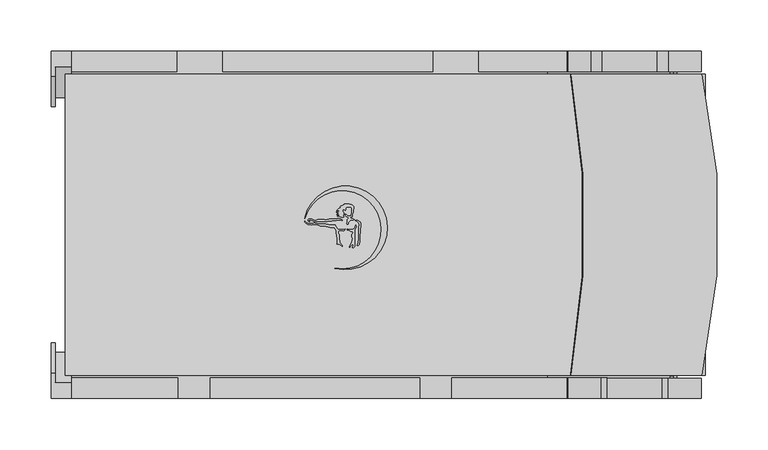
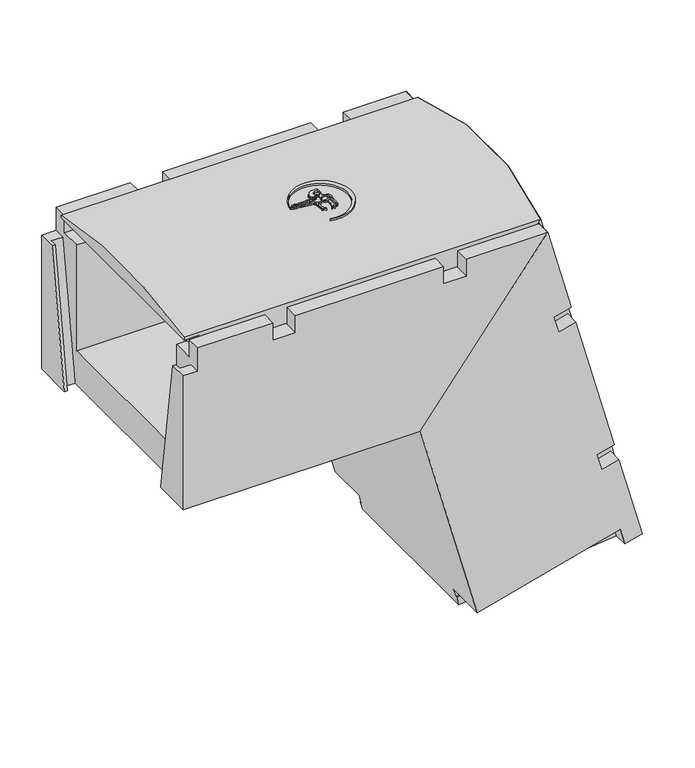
"""IFC4 building model written with IfcOpenShell, lengths in millimetres: cable carrier fitting geometry, Evotray type 2 vertical bend down : Evotray type 2 vertical bend down."""

from ifc_helpers import new_model, si_unit, point, frame, frame_2d, origin, place, context, project, spatial, polyline, circle_curve, ellipse_curve, trimmed, segment, composite_curve, outline, extrude, faceted_brep, source, transform, mapped, element, save
from ifc_brep_helpers import plane_surface, cylinder_surface, advanced_brep


def cable_carrier_fitting_0308b4ed(model_context):
    return source(origin(), model_context, "Body", "SolidModel", [
        extrude(outline(composite_curve([segment(polyline([(-90.1987673, 5.907559), (-88.7730763, 5.0844359), (-89.4820077, 4.6751342), (-92.0469375, 4.6751342), (-94.5064308, 2.2156409), (-94.5064308, 0.6319729), (-95.5639447, 0.3486129), (-95.8953119, 1.5852919), (-95.5730905, 2.7878385), (-95.5730905, 5.0146536), (-94.1065498, 6.4811943), (-94.5064308, 7.1738084), (-95.5730905, 7.7896447), (-96.4313624, 8.2851682), (-97.4244859, 9.2782918), (-97.4244859, 10.5283487), (-96.6366917, 10.0735155), (-95.5730905, 9.0099142), (-94.5064308, 8.394078), (-92.1936661, 8.394078), (-91.5617675, 9.0259766), (-91.5617675, 10.6343813), (-91.1559104, 11.3373462), (-90.9163405, 12.2314336), (-90.9163405, 16.3268685), (-91.5617675, 16.9722955), (-95.5730905, 17.3232408), (-96.3212546, 16.8912881), (-96.7531031, 16.1433045), (-96.9754965, 15.313321), (-97.2482129, 13.7666695), (-97.8042347, 14.3226912), (-98.3698905, 14.8883471), (-99.3304254, 14.8883471), (-99.8048648, 14.0665939), (-99.8048648, 13.2416885), (-99.4028177, 12.5453225), (-98.675123, 11.8176278), (-99.0717623, 10.3373496), (-99.4092623, 9.0777826), (-99.1064549, 7.3604762), (-99.907248, 7.2192748), (-101.6376932, 7.6829462), (-102.8844025, 8.2642963), (-103.6376597, 8.6155459), (-105.2371082, 8.33352), (-104.7695498, 9.1433549), (-103.1127288, 9.7463885)]), True, "CONTINUOUS"), segment(trimmed(circle_curve(frame_2d((-103.6788564, 9.4744491)), 0.6280537), [point((-103.1127288, 9.7463885))], [point((-103.8344386, 10.0829273))], True, "CARTESIAN"), True, "CONTINUOUS"), segment(polyline([(-103.8344386, 10.0829273), (-105.7814537, 10.0829273), (-105.2232755, 10.6411054), (-104.3724958, 10.9507639), (-103.5540563, 11.2486515)]), True, "CONTINUOUS"), segment(trimmed(circle_curve(frame_2d((-104.2923812, 11.2486515)), 0.7383249), [point((-103.5540563, 11.2486515))], [point((-104.2923812, 11.9869764))], True, "CARTESIAN"), True, "CONTINUOUS"), segment(polyline([(-104.2923812, 11.9869764), (-106.0001288, 11.9869764), (-106.3916504, 12.6651117), (-104.5730583, 12.9857785), (-103.2767203, 13.457607), (-103.897473, 14.0783597), (-105.8606925, 14.0783597), (-105.30811, 14.6309421), (-104.2782773, 15.2255163), (-103.603553, 15.9002407), (-102.8807357, 16.3175594), (-101.9057237, 16.8804829)]), True, "CONTINUOUS"), segment(trimmed(circle_curve(frame_2d((-102.1167091, 17.2459203)), 0.4219708), [point((-101.9057237, 16.8804829))], [point((-102.3276945, 17.6113577))], True, "CARTESIAN"), True, "CONTINUOUS"), segment(polyline([(-102.3276945, 17.6113577), (-101.7102978, 18.2287544), (-100.4076278, 18.7028875), (-99.4125713, 19.2773836), (-98.2810347, 19.4769041), (-98.6348604, 20.4490324), (-93.6348604, 20.4490324), (-92.6206866, 19.9761154), (-91.4988316, 19.6755153), (-90.4843855, 19.0898245), (-89.3757091, 17.9811481), (-89.3757091, 15.4151328), (-89.8646262, 14.5683035), (-89.8646262, 11.8362675), (-90.3536612, 10.7875287), (-90.760463, 10.0829273), (-90.760463, 8.2341629), (-91.5617675, 7.7715296), (-92.3950459, 7.6246001)]), True, "CONTINUOUS"), segment(trimmed(circle_curve(frame_2d((-91.3420944, 7.3424626)), 1.0900956), [point((-92.3950459, 7.6246001))], [point((-91.6242319, 6.2895111))], True, "CARTESIAN"), True, "CONTINUOUS"), segment(polyline([(-91.6242319, 6.2895111), (-90.1987673, 5.907559)]), True, "CONTINUOUS")], self_intersect=False)), frame((0.0, 0.0, 229.0645802), z_axis=(0.0, 0.0, 1.0), x_axis=(1.0, 0.0, 0.0)), (0.0, 0.0, 1.0), 22.5),
        extrude(outline(polyline([(-85.6420581, 3.0525563), (-87.5647021, 4.1625953), (-86.375462, 4.4812513), (-85.0006066, 3.9808448), (-82.8744575, 2.753312), (-82.462808, 1.2170154), (-82.462808, -1.5561738), (-82.8811889, -3.9289297), (-83.2073261, -13.2682758), (-83.2073261, -16.1231727), (-83.766974, -19.297094), (-84.9259981, -20.4561181), (-85.8234867, -20.4561181), (-85.1486125, -18.6019165), (-84.8396569, -16.8497423), (-84.3251997, -13.9321102), (-84.3251997, -2.6926455), (-83.883565, -0.1880111), (-84.4260419, 1.8365401), (-85.6420581, 3.0525563)])), frame((0.0, 0.0, 229.0645802), z_axis=(0.0, 0.0, 1.0), x_axis=(1.0, 0.0, 0.0)), (0.0, 0.0, 1.0), 22.5),
        extrude(outline(composite_curve([segment(polyline([(-93.070307, -4.5554644), (-91.0881056, -4.5554644), (-89.6198413, -4.2965698), (-88.3145593, -2.9912878), (-87.1344504, -0.4605362), (-86.6534984, -1.7819409), (-87.2762062, -3.117342), (-87.9468137, -4.5554644), (-87.9468137, -10.5136603), (-88.3751928, -12.943119), (-88.3751928, -21.4242609), (-89.8238515, -22.8729196), (-90.3965887, -22.3001824), (-89.7178687, -20.5578122), (-89.4597233, -19.0937972)]), True, "CONTINUOUS"), segment(trimmed(circle_curve(frame_2d((-89.8743713, -19.0937972)), 0.414648), [point((-89.4597233, -19.0937972))], [point((-90.2890194, -19.0937972))], True, "CARTESIAN"), True, "CONTINUOUS"), segment(polyline([(-90.2890194, -19.0937972), (-91.0547081, -19.8594859), (-92.3215546, -21.3692548), (-92.9770637, -22.0247639), (-93.7693849, -21.6552984), (-91.605165, -18.4467105), (-91.2992553, -16.7118106), (-90.4571975, -14.9060116), (-90.19999, -13.4473154), (-90.9884987, -12.0815782), (-90.9884987, -9.315031), (-89.6653502, -7.4454743)]), True, "CONTINUOUS"), segment(trimmed(circle_curve(frame_2d((-90.0024552, -7.2068937)), 0.4129897), [point((-89.6653502, -7.4454743))], [point((-90.2410358, -6.8697887))], True, "CARTESIAN"), True, "CONTINUOUS"), segment(polyline([(-90.2410358, -6.8697887), (-92.2448508, -6.516462), (-93.6887473, -5.843162), (-95.508748, -4.9944818), (-95.508748, -4.1255015), (-93.070307, -4.5554644)]), True, "CONTINUOUS")], self_intersect=False)), frame((0.0, 0.0, 229.0645802), z_axis=(0.0, 0.0, 1.0), x_axis=(1.0, 0.0, 0.0)), (0.0, 0.0, 1.0), 22.5),
        extrude(outline(composite_curve([segment(polyline([(-135.4819029, 2.2537302), (-133.7462291, 1.4443722), (-129.5597552, 1.4443722), (-128.4890341, 1.731271), (-127.1624965, 1.731271), (-125.4413877, 1.4443722), (-123.4350656, 0.9067798), (-122.2818775, 0.597784), (-116.5899708, 0.597784), (-113.9734749, 0.1616293), (-112.6459123, -0.19409), (-107.03167, -0.19409)]), True, "CONTINUOUS"), segment(trimmed(circle_curve(frame_2d((-98.1781038, 2.7115165)), 9.3181642), [point((-107.03167, -0.19409))], [point((-103.6774022, -4.8108435))], True, "CARTESIAN"), True, "CONTINUOUS"), segment(polyline([(-103.6774022, -4.8108435), (-100.6256174, -4.8108435), (-98.5910388, -4.632841), (-97.4520349, -4.1017147), (-97.7095548, -5.0627921), (-98.6536491, -5.6078652), (-99.612336, -5.9567987), (-102.847041, -5.8438403), (-104.0357356, -6.2764898), (-104.44473, -7.153581), (-104.3696494, -8.0117562), (-103.8907652, -8.8412079), (-103.1701597, -9.5618134), (-103.1701597, -11.3180259), (-103.53546, -12.3216801), (-103.3911934, -13.970655), (-102.8861011, -15.8556852), (-102.737982, -17.5486944), (-100.3666469, -20.2766033), (-100.5753239, -21.4600691), (-103.1701597, -18.8652332), (-104.1329913, -19.1232231), (-105.5361675, -18.8758053), (-105.2606072, -18.1187094), (-105.2606072, -15.8446539), (-105.0850033, -14.8487551), (-105.2606072, -12.8415943), (-105.6362696, -11.8094702), (-105.6362696, -9.9842873), (-106.0826053, -9.0271173), (-106.0826053, -6.6493678), (-106.3310455, -5.7221762), (-106.7830159, -4.9393406), (-107.2317276, -4.1621491), (-107.84617, -3.5477067), (-108.2800213, -2.6173096), (-111.8809595, -2.4915621), (-114.2251115, -2.1008055), (-116.2577048, -1.5561738), (-119.5993244, -1.2049554), (-121.6789374, -1.2049554), (-123.021172, -0.8453047), (-124.5447671, -0.4370587), (-125.8880204, 0.1893106), (-126.8824091, 0.1893106), (-129.5338495, 0.1893106), (-130.6460936, -0.1087143), (-132.5093755, 0.0871245), (-133.9984504, 0.3353447), (-135.6717579, 1.1156208), (-136.6476843, 2.0915471), (-137.2867674, 2.7306302), (-137.2867674, 3.5175099), (-135.4819029, 2.2537302)]), True, "CONTINUOUS")], self_intersect=False)), frame((0.0, 0.0, 229.0645802), z_axis=(0.0, 0.0, 1.0), x_axis=(1.0, 0.0, 0.0)), (0.0, 0.0, 1.0), 22.5),
        extrude(outline(composite_curve([segment(polyline([(-132.9796703, 3.7977023), (-131.956356, 3.2068915), (-133.6840165, 3.7265624), (-134.014163, 4.6441261), (-133.1758386, 5.4824506), (-130.30302, 5.4824506), (-129.318583, 5.0847122), (-128.2280942, 4.6441261), (-127.4299007, 4.1832889), (-126.1696706, 4.1832889), (-125.3486455, 4.4787), (-124.4633932, 4.9898007), (-118.0496883, 4.9898007), (-117.1941137, 4.6441261), (-116.1237116, 4.6441261), (-115.1629915, 4.9898007), (-113.9838348, 4.9898007), (-113.2654957, 5.4045339), (-107.8528405, 5.4045339), (-107.0925598, 5.6780888), (-105.8504018, 5.6780888), (-105.2746333, 6.2538574), (-103.3170698, 6.2538574), (-102.0290688, 5.7334711), (-101.0171524, 5.1492409), (-100.2127113, 4.8242256)]), True, "CONTINUOUS"), segment(trimmed(circle_curve(frame_2d((-100.6200436, 4.6596527)), 0.4393221), [point((-100.2127113, 4.8242256))], [point((-100.7846166, 4.2523203))], False, "CARTESIAN"), True, "CONTINUOUS"), segment(polyline([(-100.7846166, 4.2523203), (-101.8003453, 4.6627013), (-103.112003, 4.6627013), (-104.382433, 4.8867124), (-105.1944574, 4.5945398), (-106.3374314, 4.1832889), (-109.6816293, 4.1832889), (-110.4727027, 3.7265624), (-114.0400229, 3.7265624), (-114.9228853, 3.2168416), (-124.9228853, 3.2168416), (-127.5335493, 2.9884381), (-131.222077, 4.4787), (-133.3728446, 4.4787), (-132.9796703, 3.7977023)]), True, "CONTINUOUS")], self_intersect=False)), frame((0.0, 0.0, 229.0645802), z_axis=(0.0, 0.0, 1.0), x_axis=(1.0, 0.0, 0.0)), (0.0, 0.0, 1.0), 22.5),
        extrude(outline(composite_curve([segment(trimmed(circle_curve(frame_2d((-100.3994103, -4.8721323)), 38.3616107), [point((-107.8072471, -42.511701))], [point((-137.1109456, 6.2578432))], True, "CARTESIAN"), True, "CONTINUOUS"), segment(trimmed(circle_curve(frame_2d((-97.2700096, -2.9917986)), 40.900563), [point((-137.1109456, 6.2578432))], [point((-107.8072471, -42.511701))], False, "CARTESIAN"), True, "CONTINUOUS")], self_intersect=False)), frame((0.0, 0.0, 229.0645802), z_axis=(0.0, 0.0, 1.0), x_axis=(1.0, 0.0, 0.0)), (0.0, 0.0, 1.0), 22.5),
        advanced_brep(
        [(100.7029586, -147.5, 205.0), (226.4121345, -147.5, -264.1530316), (254.4007465, -147.5, -256.6535056), (251.2949179, -147.5, -245.0623957), (122.9554412, -147.5, 234.0), (226.4121345, 147.5, -264.1530316), (100.7029586, 147.5, 205.0), (122.9554412, 147.5, 234.0), (251.3181549, 147.5, -245.0561693), (254.4007465, 147.5, -256.6535056)],
        [
            (0, 1),
            (1, 2),
            (2, 3),
            (3, 4),
            (4, 0),
            (5, 6),
            (6, 7),
            (7, 8),
            (8, 9),
            (9, 5),
            (1, 5),
            (9, 2),
            (6, 0),
            (4, 7, ellipse_curve(frame((-362.8113603, 0.0, -399.063621), z_axis=(-0.7933533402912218, 0.0, 0.6087614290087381), x_axis=(-0.6087614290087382, 0.0, -0.7933533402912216)), 819.3320826, 650.0198445)),
            (8, 3),
            (8, 3, circle_curve(frame((-360.1743463, 0.0, -408.9050912), z_axis=(0.2588190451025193, 0.0, -0.9659258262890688), x_axis=(0.0, -1.0, 0.0)), 650.0198445)),
        ],
        [
            plane_surface(frame((226.4121345, -147.5, -264.1530316), z_axis=(0.0, -1.0, 0.0), x_axis=(0.9659258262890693, 0.0, 0.25881904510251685))),
            plane_surface(frame((226.4121345, 147.5, -264.1530316), z_axis=(0.0, 1.0, 0.0), x_axis=(-0.9659258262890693, 0.0, -0.25881904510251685))),
            plane_surface(frame((226.4121345, -147.5, -264.1530316), z_axis=(0.25881904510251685, 0.0, -0.9659258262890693), x_axis=(0.0, 1.0, 0.0))),
            plane_surface(frame((136.0, -147.5, 251.0), z_axis=(-0.7933533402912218, 0.0, 0.6087614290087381), x_axis=(0.0, 1.0, 0.0))),
            plane_surface(frame((100.7029586, -147.5, 205.0), z_axis=(-0.9659258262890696, 0.0, -0.258819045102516), x_axis=(0.0, 1.0, 0.0))),
            plane_surface(frame((254.4007465, -147.5, -256.6535056), z_axis=(0.9659258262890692, 0.0, 0.2588190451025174), x_axis=(-0.2588190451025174, 0.0, 0.9659258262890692))),
            plane_surface(frame((251.2949179, -147.5, -245.0623957), z_axis=(0.25881904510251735, 0.0, -0.9659258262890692), x_axis=(0.9659258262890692, 0.0, 0.25881904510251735))),
            cylinder_surface(frame((-487.345467, 0.0, 65.7039924), z_axis=(0.2588190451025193, 0.0, -0.9659258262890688), x_axis=(0.0, -1.0, 0.0)), 650.0198445),
        ],
        [
            (0, [[1, 2, 3, 4, 5]]),
            (1, [[6, 7, 8, 9, 10]]),
            (2, [[11, -10, 12, -2]]),
            (3, [[13, -5, 14, -7]]),
            (4, [[-1, -13, -6, -11]]),
            (5, [[15, -3, -12, -9]]),
            (6, [[-15, 16]]),
            (7, [[-4, -16, -8, -14]]),
        ],
    ),
        advanced_brep(
        [(-351.0, -147.5, 205.0), (100.7029586, -147.5, 205.0), (122.9554412, -147.5, 234.0), (-371.0, -147.5, 234.0), (-371.0, -147.5, 230.0), (-351.0, -147.5, 230.0), (100.7029586, 147.5, 205.0), (-351.0, 147.5, 205.0), (-351.0, 147.5, 230.0), (-371.0, 147.5, 230.0), (-371.0, 147.5, 234.0), (122.9554412, 147.5, 234.0)],
        [
            (0, 1),
            (1, 2),
            (2, 3),
            (3, 4),
            (4, 5),
            (5, 0),
            (6, 7),
            (7, 8),
            (8, 9),
            (9, 10),
            (10, 11),
            (11, 6),
            (9, 4),
            (3, 10, circle_curve(frame((-371.0, 0.0, -399.063621), z_axis=(-1.0, 0.0, 0.0), x_axis=(0.0, -1.0, 0.0)), 650.0198445)),
            (6, 1),
            (0, 7),
            (11, 2, ellipse_curve(frame((-362.8113603, 0.0, -399.063621), z_axis=(0.7933533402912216, 0.0, -0.6087614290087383), x_axis=(0.6087614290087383, 0.0, 0.7933533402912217)), 819.3320826, 650.0198445)),
            (8, 5),
        ],
        [
            plane_surface(frame((-371.0, -147.5, 205.0), z_axis=(0.0, -1.0, 0.0), x_axis=(0.0, 0.0, -1.0))),
            plane_surface(frame((-371.0, 147.5, 205.0), z_axis=(0.0, 1.0, 0.0), x_axis=(0.0, 0.0, 1.0))),
            plane_surface(frame((-371.0, -147.5, 251.0), z_axis=(-1.0, 0.0, 0.0), x_axis=(0.0, 1.0, 0.0))),
            plane_surface(frame((-371.0, -147.5, 205.0), z_axis=(0.0, 0.0, -1.0), x_axis=(0.0, 1.0, 0.0))),
            plane_surface(frame((100.7029586, -147.5, 205.0), z_axis=(0.7933533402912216, 0.0, -0.6087614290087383), x_axis=(0.0, 1.0, 0.0))),
            plane_surface(frame((-371.0, 147.5, 230.0), z_axis=(0.0, 0.0, -1.0), x_axis=(-1.0, 0.0, 0.0))),
            plane_surface(frame((-351.0, -147.5, 230.0), z_axis=(-1.0, 0.0, 0.0), x_axis=(0.0, 0.0, -1.0))),
            cylinder_surface(frame((-371.0, 0.0, -399.063621), z_axis=(1.0, 0.0, 0.0), x_axis=(0.0, -1.0, 0.0)), 650.0198445),
        ],
        [
            (0, [[1, 2, 3, 4, 5, 6]]),
            (1, [[7, 8, 9, 10, 11, 12]]),
            (2, [[13, -4, 14, -10]]),
            (3, [[15, -1, 16, -7]]),
            (4, [[-15, -12, 17, -2]]),
            (5, [[18, -5, -13, -9]]),
            (6, [[-18, -8, -16, -6]]),
            (7, [[-3, -17, -11, -14]]),
        ],
    ),
        faceted_brep([(119.8861333, -170.0, 230.0), (-56.599074, -170.0, 0.0), (21.926864, -170.0, -293.0627902), (219.9416584, -170.0, -240.0048859), (226.4121345, -170.0, -264.1530316), (250.5602801, -170.0, -257.6825554), (218.4667186, -170.0, -137.907753), (194.3185729, -170.0, -144.3782291), (187.8480968, -170.0, -120.2300835), (211.9962424, -170.0, -113.7596073), (158.9383382, -170.0, 84.2551871), (134.7901925, -170.0, 77.7847109), (128.3197164, -170.0, 101.9328566), (152.4678621, -170.0, 108.4033327), (-56.599074, 170.0, 0.0), (119.8861333, 170.0, 230.0), (142.3739193, 170.0, 146.0744399), (118.2257736, 170.0, 139.6039638), (129.8726307, 170.0, 96.1373016), (154.0207763, 170.0, 102.6077778), (207.0786806, 170.0, -95.4070166), (182.9305349, 170.0, -101.8774928), (194.5773919, 170.0, -145.3441549), (218.7255376, 170.0, -138.8736788), (250.5602801, 170.0, -257.6825554), (226.4121345, 170.0, -264.1530316), (219.9416584, 170.0, -240.0048859), (21.926864, 170.0, -293.0627902), (226.4121345, -120.0, -264.1530316), (226.4121345, -150.0, -264.1530316), (28.3973401, -115.4, -317.2109358), (28.3973401, 115.4, -317.2109358), (226.4121345, 150.0, -264.1530316), (226.4121345, 120.0, -264.1530316), (76.6936314, 120.0, -304.2699836), (76.6936314, -120.0, -304.2699836), (250.5602801, -150.0, -257.6825554), (250.5602801, 150.0, -257.6825554), (211.9962424, -150.0, -113.7596073), (158.9383382, -150.0, 84.2551871), (154.0207763, 150.0, 102.6077778), (207.0786806, 150.0, -95.4070166), (218.4667186, -150.0, -137.907753), (218.7255376, 150.0, -138.8736788), (119.8861333, -150.0, 230.0), (152.4678621, -150.0, 108.4033327), (119.8861333, 150.0, 230.0), (142.3739193, 150.0, 146.0744399), (100.7029586, -150.0, 205.0), (100.7029586, -120.0, 205.0), (-18.2327246, -120.0, 50.0), (-18.2327246, 120.0, 50.0), (100.7029586, 120.0, 205.0), (100.7029586, 150.0, 205.0), (21.926864, 113.0, -293.0627902), (25.0326925, 113.0, -304.6539001), (25.0326925, 115.4, -304.6539001), (25.0326925, -115.4, -304.6539001), (25.0326925, -113.0, -304.6539001), (21.926864, -113.0, -293.0627902), (223.0474869, -150.0, -251.5959958), (219.9416584, -150.0, -240.0048859), (194.3185729, -150.0, -144.3782291), (187.8480968, -150.0, -120.2300835), (134.7901925, -150.0, 77.7847109), (128.3197164, -150.0, 101.9328566), (194.5773919, 150.0, -145.3441549), (219.9416584, 150.0, -240.0048859), (223.0474869, 150.0, -251.5959958), (129.8726307, 150.0, 96.1373016), (182.9305349, 150.0, -101.8774928), (118.2257736, 150.0, 139.6039638), (219.9416584, -147.6, -240.0048859), (223.0474869, -147.6, -251.5959958), (223.0474869, 147.6, -251.5959958), (219.9416584, 147.6, -240.0048859)], [[[0, 1, 2, 3, 4, 5, 6, 7, 8, 9, 10, 11, 12, 13]], [[14, 15, 16, 17, 18, 19, 20, 21, 22, 23, 24, 25, 26, 27]], [[28, 29, 30, 31, 32, 33, 34, 35]], [[36, 5, 4, 29]], [[24, 37, 32, 25]], [[10, 9, 38, 39]], [[20, 19, 40, 41]], [[5, 36, 42, 6]], [[37, 24, 23, 43]], [[44, 0, 13, 45]], [[15, 46, 47, 16]], [[1, 0, 44, 48, 49, 50, 51, 52, 53, 46, 15, 14]], [[1, 14, 27, 54, 55, 56, 31, 30, 57, 58, 59, 2]], [[36, 29, 60, 61, 62, 42]], [[39, 38, 63, 64]], [[48, 44, 45, 65]], [[32, 37, 43, 66, 67, 68]], [[41, 40, 69, 70]], [[46, 53, 71, 47]], [[49, 48, 65, 12, 11, 64, 63, 8, 7, 62, 61, 72, 73, 60, 29, 28]], [[53, 52, 33, 32, 68, 74, 75, 67, 66, 22, 21, 70, 69, 18, 17, 71]], [[35, 50, 49, 28]], [[51, 34, 33, 52]], [[50, 35, 34, 51]], [[60, 29, 4, 3, 61]], [[29, 60, 57, 30]], [[32, 68, 67, 26, 25]], [[68, 32, 31, 56]], [[58, 73, 72, 59]], [[59, 72, 61, 3, 2]], [[73, 58, 57, 60]], [[54, 75, 74, 55]], [[75, 54, 27, 26, 67]], [[55, 74, 68, 56]], [[70, 21, 20, 41]], [[22, 66, 43, 23]], [[62, 7, 6, 42]], [[8, 63, 38, 9]], [[71, 17, 16, 47]], [[18, 69, 40, 19]], [[64, 11, 10, 39]], [[12, 65, 45, 13]]]),
        faceted_brep([(-385.0, -170.0, 0.0), (-56.599074, -170.0, 0.0), (119.8861333, -170.0, 230.0), (6.6963481, -170.0, 230.0), (6.6963481, -170.0, 205.0), (-24.6518259, -170.0, 205.0), (-24.6518259, -170.0, 230.0), (-229.6518259, -170.0, 230.0), (-229.6518259, -170.0, 205.0), (-261.0, -170.0, 205.0), (-261.0, -170.0, 230.0), (-365.0130369, -170.0, 230.0), (-365.0130369, -170.0, 196.0), (-385.0, -170.0, 196.0), (119.8861333, 170.0, 230.0), (-56.599074, 170.0, 0.0), (-385.0, 170.0, 0.0), (-385.0, 170.0, 196.0), (-365.0130369, 170.0, 196.0), (-365.0130369, 170.0, 230.0), (-262.0, 170.0, 230.0), (-262.0, 170.0, 205.0), (-217.0, 170.0, 205.0), (-217.0, 170.0, 230.0), (-12.0, 170.0, 230.0), (-12.0, 170.0, 205.0), (33.0, 170.0, 205.0), (33.0, 170.0, 230.0), (-24.6518259, -150.0, 230.0), (-229.6518259, -150.0, 230.0), (-217.0, 150.0, 230.0), (-12.0, 150.0, 230.0), (119.8861333, -150.0, 230.0), (6.6963481, -150.0, 230.0), (119.8861333, 150.0, 230.0), (33.0, 150.0, 230.0), (-365.0130369, -150.0, 230.0), (-261.0, -150.0, 230.0), (-365.0130369, 150.0, 230.0), (-262.0, 150.0, 230.0), (-385.0, -115.45, 0.0), (-385.0, -144.8926087, 196.0), (-385.0, 115.45, 0.0), (-385.0, 144.8926087, 196.0), (-381.0, -115.45, 0.0), (-381.0, -124.6, 0.0), (-365.0, -124.6, 0.0), (-365.0, 124.6, 0.0), (-381.0, 124.6, 0.0), (-381.0, 115.45, 0.0), (100.7029586, 150.0, 205.0), (100.7029586, 120.0, 205.0), (-18.2327246, 120.0, 50.0), (-18.2327246, -120.0, 50.0), (100.7029586, -120.0, 205.0), (100.7029586, -150.0, 205.0), (-381.0, 144.8926087, 196.0), (-381.0, -144.8926087, 196.0), (-365.0, 154.0426087, 196.0), (-381.0, 154.0426087, 196.0), (-381.0, -154.0426087, 196.0), (-365.0, -154.0426087, 196.0), (-365.0, -150.0, 205.0), (-365.0, -147.5, 205.0), (-365.0, -120.0, 205.0), (-365.0, -120.0, 50.0), (-365.0, 120.0, 50.0), (-365.0, 120.0, 205.0), (-365.0, 147.5, 205.0), (-365.0, 150.0, 205.0), (-24.6518259, -150.0, 205.0), (-229.6518259, -150.0, 205.0), (6.6963481, -150.0, 205.0), (-261.0, -150.0, 205.0), (-217.0, 150.0, 205.0), (-12.0, 150.0, 205.0), (33.0, 150.0, 205.0), (-262.0, 150.0, 205.0), (-351.0, 120.0, 205.0), (-351.0, -120.0, 205.0)], [[[0, 1, 2, 3, 4, 5, 6, 7, 8, 9, 10, 11, 12, 13]], [[14, 15, 16, 17, 18, 19, 20, 21, 22, 23, 24, 25, 26, 27]], [[7, 6, 28, 29]], [[24, 23, 30, 31]], [[2, 32, 33, 3]], [[34, 14, 27, 35]], [[36, 11, 10, 37]], [[19, 38, 39, 20]], [[40, 0, 13, 41]], [[16, 42, 43, 17]], [[1, 0, 40, 44, 45, 46, 47, 48, 49, 42, 16, 15]], [[2, 1, 15, 14, 34, 50, 51, 52, 53, 54, 55, 32]], [[42, 49, 56, 43]], [[44, 40, 41, 57]], [[48, 47, 58, 59]], [[45, 44, 57, 60]], [[49, 48, 59, 56]], [[46, 45, 60, 61]], [[47, 46, 61, 12, 11, 36, 62, 63, 64, 65, 66, 67, 68, 69, 38, 19, 18, 58]], [[12, 61, 60, 57, 41, 13]], [[58, 18, 17, 43, 56, 59]], [[29, 28, 70, 71]], [[32, 55, 72, 33]], [[62, 36, 37, 73]], [[31, 30, 74, 75]], [[50, 34, 35, 76]], [[38, 69, 77, 39]], [[51, 50, 76, 26, 25, 75, 74, 22, 21, 77, 69, 68, 67, 78]], [[55, 54, 79, 64, 63, 62, 73, 9, 8, 71, 70, 5, 4, 72]], [[53, 65, 64, 79, 54]], [[66, 52, 51, 78, 67]], [[65, 53, 52, 66]], [[77, 21, 20, 39]], [[22, 74, 30, 23]], [[9, 73, 37, 10]], [[71, 8, 7, 29]], [[75, 25, 24, 31]], [[26, 76, 35, 27]], [[5, 70, 28, 6]], [[72, 4, 3, 33]]]),
    ])


if __name__ == "__main__":
    model = new_model("IFC4")
    model_context = context("Model", 3, world=origin())
    ifc_project = project(units=[si_unit("LENGTHUNIT", "METRE", prefix="MILLI")], contexts=[model_context])
    site = spatial("IfcSite", under=ifc_project)
    building = spatial("IfcBuilding", under=site)
    placement = place(None, origin())
    cable_carrier_fitting_shape = cable_carrier_fitting_0308b4ed(model_context)
    element("IfcCableCarrierFitting", 1, ObjectType="Evotray type 2 vertical bend down : Evotray type 2 vertical bend down", at=placement, inside=building, context=model_context, shape_type="MappedRepresentation", body=[
        mapped(cable_carrier_fitting_shape, transform((0.0, 0.0, 0.0), x_axis=(1.0, 0.0, 0.0), y_axis=(0.0, 1.0, 0.0), z_axis=(0.0, 0.0, 1.0))),
    ])
    save(model, "model.ifc")
